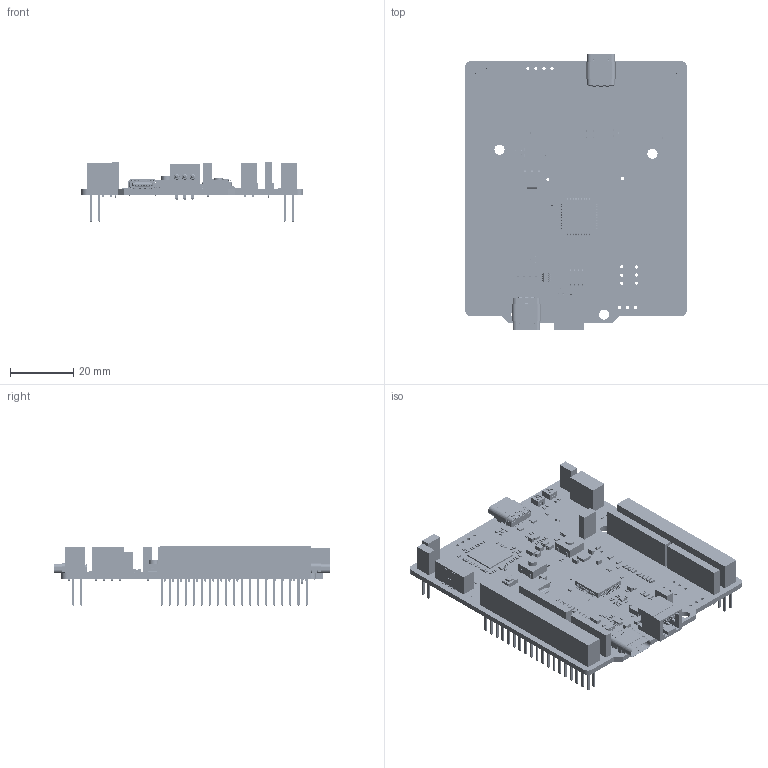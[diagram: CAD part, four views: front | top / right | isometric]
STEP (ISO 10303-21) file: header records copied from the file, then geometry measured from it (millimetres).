
FILE_DESCRIPTION(('Open CASCADE Model'),'2;1');
FILE_NAME('Open CASCADE Shape Model','2025-11-21T16:57:44',('Author'),( 'Open CASCADE'),'Open CASCADE STEP processor 7.5','Open CASCADE 7.5' ,'Unknown');
FILE_SCHEMA(('AUTOMOTIVE_DESIGN { 1 0 10303 214 1 1 1 1 }'));
Length unit declared in the file: millimetre
Products named in the file (403): PCB; Board; Open CASCADE STEP translator 7.5 1.1.1; U38; 7250596064; Extruded; U37; 7250589424; U36; U35; U34; U33; U32; U31; U30; SB8; R0603; 7252311216; Q1; SOT23-3_TO-236AB; 7250597344; LD6; 7675961232; 7672181088; 7252310256; 7252309856; 7252309456; 7252309296; 7252309136; 7252308896; 7252308736; LD4; X3; NX2016; 7250594624; 7250594464; X2; 7691472848; 7692204976; 7691177744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
Assembly tree (957 placements, depth 4):
  PCB
    Board
      Open CASCADE STEP translator 7.5 1.1.1
    U38
      7250596064
        Extruded
    U37
      7250589424
        Extruded
    U36
      7250589424
        Extruded
    U35
      7250589424
        Extruded
    U34
      7250589424
        Extruded
    U33
      7250589424
        Extruded
    U32
      7250589424
        Extruded
    U31
      7250589424
        Extruded
    U30
      7250589424
        Extruded
    SB8
      R0603
      7252311216
        Extruded
    Q1
      SOT23-3_TO-236AB
      7250597344
        Extruded
    LD6
      7675961232
        Extruded
      7672181088
        Extruded
      7252310256  x4
        Extruded
      7252309856  x4
        Extruded
      7252309456
        Extruded
      7252309296
        Extruded
      7252309136  x2
        Extruded
      7252308896
        Extruded
      7252308736
        Extruded
    LD4
      7675961232
        Extruded
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Bounding box: 70 x 87.31 x 18.67 mm (x, y, z)
Volume: 21738.6 mm3; surface area: 37228.7 mm2
Topology: 893 solids, 938 shells, 41962 faces, 102148 edges, 60563 vertices
Faces by surface type: plane 20253, cylinder 10215, bspline 6208, sphere 3151, torus 1533, revolution 434, cone 168
Full cylindrical faces by diameter (mm): 0.3 x2, 0.4 x1, 0.5 x1, 0.65 x2, 0.97 x2, 1 x111, 1.1 x32, 1.19 x2, 1.4 x3, 1.8 x3, 3.2 x3
Entity records: 451030 total; most frequent: CARTESIAN_POINT 83063, ORIENTED_EDGE 61314, DIRECTION 59878, EDGE_CURVE 30659, LINE 22870, VECTOR 22870, VERTEX_POINT 19418, AXIS2_PLACEMENT_3D 18475
